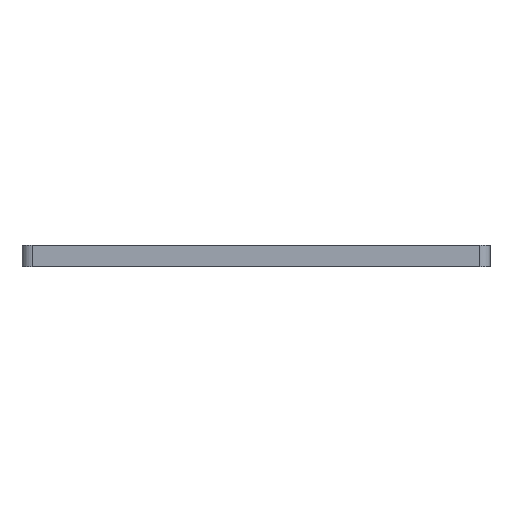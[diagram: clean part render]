
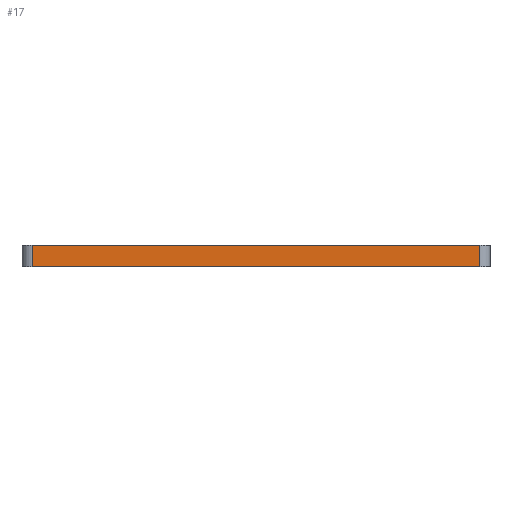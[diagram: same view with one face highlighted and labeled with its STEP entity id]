
A CAD part, left-side view. The second image highlights one B-rep face of the part: STEP entity #17.
In plain terms, the highlighted planar face has unit normal (-1, 0, 0).
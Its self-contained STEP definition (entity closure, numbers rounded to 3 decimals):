
#17 = ADVANCED_FACE('',(#18),#32,.F.);
#18 = FACE_BOUND('',#19,.F.);
#19 = EDGE_LOOP('',(#20,#55,#83,#111));
#20 = ORIENTED_EDGE('',*,*,#21,.F.);
#21 = EDGE_CURVE('',#22,#24,#26,.T.);
#22 = VERTEX_POINT('',#23);
#23 = CARTESIAN_POINT('',(-37.65,-32.5,3.175));
#24 = VERTEX_POINT('',#25);
#25 = CARTESIAN_POINT('',(-37.65,32.5,3.175));
#26 = SURFACE_CURVE('',#27,(#31,#43),.PCURVE_S1.);
#27 = LINE('',#28,#29);
#28 = CARTESIAN_POINT('',(-37.65,-34.,3.175));
#29 = VECTOR('',#30,1.);
#30 = DIRECTION('',(-0.,1.,0.));
#31 = PCURVE('',#32,#37);
#32 = PLANE('',#33);
#33 = AXIS2_PLACEMENT_3D('',#34,#35,#36);
#34 = CARTESIAN_POINT('',(-37.65,-34.,0.));
#35 = DIRECTION('',(1.,0.,-0.));
#36 = DIRECTION('',(0.,0.,1.));
#37 = DEFINITIONAL_REPRESENTATION('',(#38),#42);
#38 = LINE('',#39,#40);
#39 = CARTESIAN_POINT('',(3.175,0.));
#40 = VECTOR('',#41,1.);
#41 = DIRECTION('',(0.,-1.));
#42 = ( GEOMETRIC_REPRESENTATION_CONTEXT(2) 
PARAMETRIC_REPRESENTATION_CONTEXT() REPRESENTATION_CONTEXT('2D SPACE',''
  ) );
#43 = PCURVE('',#44,#49);
#44 = PLANE('',#45);
#45 = AXIS2_PLACEMENT_3D('',#46,#47,#48);
#46 = CARTESIAN_POINT('',(-37.65,-34.,3.175));
#47 = DIRECTION('',(0.,0.,1.));
#48 = DIRECTION('',(1.,0.,-0.));
#49 = DEFINITIONAL_REPRESENTATION('',(#50),#54);
#50 = LINE('',#51,#52);
#51 = CARTESIAN_POINT('',(0.,0.));
#52 = VECTOR('',#53,1.);
#53 = DIRECTION('',(0.,1.));
#54 = ( GEOMETRIC_REPRESENTATION_CONTEXT(2) 
PARAMETRIC_REPRESENTATION_CONTEXT() REPRESENTATION_CONTEXT('2D SPACE',''
  ) );
#55 = ORIENTED_EDGE('',*,*,#56,.F.);
#56 = EDGE_CURVE('',#57,#22,#59,.T.);
#57 = VERTEX_POINT('',#58);
#58 = CARTESIAN_POINT('',(-37.65,-32.5,0.));
#59 = SURFACE_CURVE('',#60,(#64,#71),.PCURVE_S1.);
#60 = LINE('',#61,#62);
#61 = CARTESIAN_POINT('',(-37.65,-32.5,0.));
#62 = VECTOR('',#63,1.);
#63 = DIRECTION('',(0.,0.,1.));
#64 = PCURVE('',#32,#65);
#65 = DEFINITIONAL_REPRESENTATION('',(#66),#70);
#66 = LINE('',#67,#68);
#67 = CARTESIAN_POINT('',(0.,-1.5));
#68 = VECTOR('',#69,1.);
#69 = DIRECTION('',(1.,0.));
#70 = ( GEOMETRIC_REPRESENTATION_CONTEXT(2) 
PARAMETRIC_REPRESENTATION_CONTEXT() REPRESENTATION_CONTEXT('2D SPACE',''
  ) );
#71 = PCURVE('',#72,#77);
#72 = CYLINDRICAL_SURFACE('',#73,1.5);
#73 = AXIS2_PLACEMENT_3D('',#74,#75,#76);
#74 = CARTESIAN_POINT('',(-36.15,-32.5,0.));
#75 = DIRECTION('',(0.,0.,1.));
#76 = DIRECTION('',(-1.,-0.,0.));
#77 = DEFINITIONAL_REPRESENTATION('',(#78),#82);
#78 = LINE('',#79,#80);
#79 = CARTESIAN_POINT('',(0.,0.));
#80 = VECTOR('',#81,1.);
#81 = DIRECTION('',(0.,1.));
#82 = ( GEOMETRIC_REPRESENTATION_CONTEXT(2) 
PARAMETRIC_REPRESENTATION_CONTEXT() REPRESENTATION_CONTEXT('2D SPACE',''
  ) );
#83 = ORIENTED_EDGE('',*,*,#84,.T.);
#84 = EDGE_CURVE('',#57,#85,#87,.T.);
#85 = VERTEX_POINT('',#86);
#86 = CARTESIAN_POINT('',(-37.65,32.5,0.));
#87 = SURFACE_CURVE('',#88,(#92,#99),.PCURVE_S1.);
#88 = LINE('',#89,#90);
#89 = CARTESIAN_POINT('',(-37.65,-34.,0.));
#90 = VECTOR('',#91,1.);
#91 = DIRECTION('',(-0.,1.,0.));
#92 = PCURVE('',#32,#93);
#93 = DEFINITIONAL_REPRESENTATION('',(#94),#98);
#94 = LINE('',#95,#96);
#95 = CARTESIAN_POINT('',(0.,0.));
#96 = VECTOR('',#97,1.);
#97 = DIRECTION('',(0.,-1.));
#98 = ( GEOMETRIC_REPRESENTATION_CONTEXT(2) 
PARAMETRIC_REPRESENTATION_CONTEXT() REPRESENTATION_CONTEXT('2D SPACE',''
  ) );
#99 = PCURVE('',#100,#105);
#100 = PLANE('',#101);
#101 = AXIS2_PLACEMENT_3D('',#102,#103,#104);
#102 = CARTESIAN_POINT('',(-37.65,-34.,0.));
#103 = DIRECTION('',(0.,0.,1.));
#104 = DIRECTION('',(1.,0.,-0.));
#105 = DEFINITIONAL_REPRESENTATION('',(#106),#110);
#106 = LINE('',#107,#108);
#107 = CARTESIAN_POINT('',(0.,0.));
#108 = VECTOR('',#109,1.);
#109 = DIRECTION('',(0.,1.));
#110 = ( GEOMETRIC_REPRESENTATION_CONTEXT(2) 
PARAMETRIC_REPRESENTATION_CONTEXT() REPRESENTATION_CONTEXT('2D SPACE',''
  ) );
#111 = ORIENTED_EDGE('',*,*,#112,.T.);
#112 = EDGE_CURVE('',#85,#24,#113,.T.);
#113 = SURFACE_CURVE('',#114,(#118,#125),.PCURVE_S1.);
#114 = LINE('',#115,#116);
#115 = CARTESIAN_POINT('',(-37.65,32.5,0.));
#116 = VECTOR('',#117,1.);
#117 = DIRECTION('',(0.,0.,1.));
#118 = PCURVE('',#32,#119);
#119 = DEFINITIONAL_REPRESENTATION('',(#120),#124);
#120 = LINE('',#121,#122);
#121 = CARTESIAN_POINT('',(0.,-66.5));
#122 = VECTOR('',#123,1.);
#123 = DIRECTION('',(1.,0.));
#124 = ( GEOMETRIC_REPRESENTATION_CONTEXT(2) 
PARAMETRIC_REPRESENTATION_CONTEXT() REPRESENTATION_CONTEXT('2D SPACE',''
  ) );
#125 = PCURVE('',#126,#131);
#126 = CYLINDRICAL_SURFACE('',#127,1.5);
#127 = AXIS2_PLACEMENT_3D('',#128,#129,#130);
#128 = CARTESIAN_POINT('',(-36.15,32.5,0.));
#129 = DIRECTION('',(0.,0.,1.));
#130 = DIRECTION('',(-1.,-0.,0.));
#131 = DEFINITIONAL_REPRESENTATION('',(#132),#136);
#132 = LINE('',#133,#134);
#133 = CARTESIAN_POINT('',(-0.,0.));
#134 = VECTOR('',#135,1.);
#135 = DIRECTION('',(-0.,1.));
#136 = ( GEOMETRIC_REPRESENTATION_CONTEXT(2) 
PARAMETRIC_REPRESENTATION_CONTEXT() REPRESENTATION_CONTEXT('2D SPACE',''
  ) );
